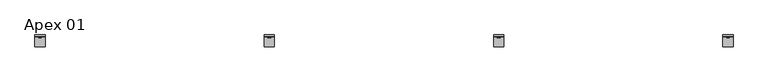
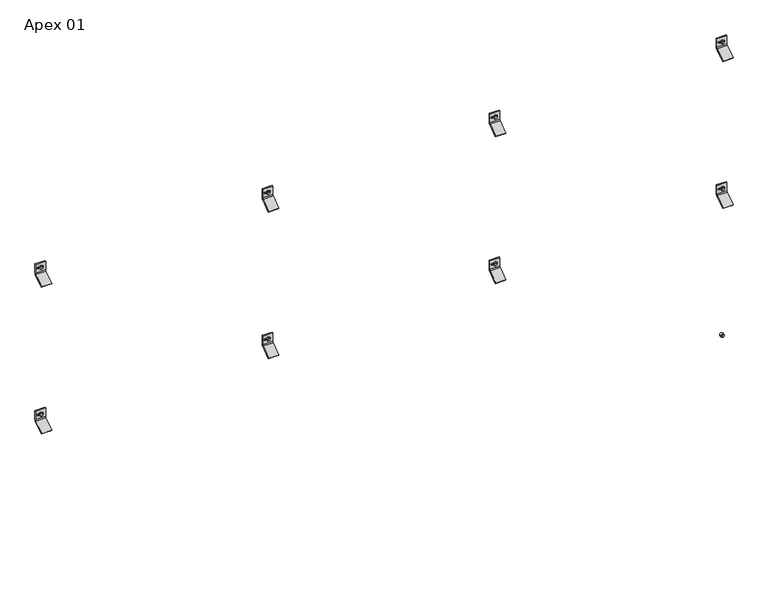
"""IFC4 building model written with IfcOpenShell, lengths in millimetres: plate geometry, Single-Panel-Perforated-Amico_Architectural : Apex 01."""

from ifc_helpers import new_model, si_unit, point, frame, frame_2d, origin, place, context, project, spatial, polyline, circle_curve, trimmed, segment, composite_curve, outline, extrude, source, transform, mapped, element, save
from ifc_brep_helpers import plane_surface, cylinder_surface, revolved_surface, advanced_brep


def apex_01_cb4a7286(model_context):
    return source(origin(), model_context, "Body", "SolidModel", [
        extrude(outline(polyline([(1939.6304341, 1290.3820034), (1935.2847216, 1292.8910017), (1935.2847216, 1297.9089983), (1939.6304341, 1300.4179966), (1943.9761466, 1297.9089983), (1943.9761466, 1292.8910017), (1939.6304341, 1290.3820034)])), frame((0.0, -58.7607779, 0.0), z_axis=(0.0, 1.0, 0.0), x_axis=(0.0, 0.0, 1.0)), (0.0, 0.0, 1.0), 11.1357779),
        extrude(outline(composite_curve([segment(trimmed(circle_curve(frame_2d((1939.7237411, 1295.4)), 6.35), [point((1939.7237411, 1301.75))], [point((1939.7237411, 1289.05))], False, "CARTESIAN"), True, "CONTINUOUS"), segment(trimmed(circle_curve(frame_2d((1939.7237411, 1295.4)), 6.35), [point((1939.7237411, 1289.05))], [point((1939.7237411, 1301.75))], False, "CARTESIAN"), True, "CONTINUOUS")], self_intersect=False)), frame((0.0, -57.0817743, 0.0), z_axis=(0.0, 1.0, 0.0), x_axis=(0.0, 0.0, 1.0)), (0.0, 0.0, 1.0), 9.4567743),
        advanced_brep(
        [(1276.35, -47.625, 1922.481122), (1276.35, -51.2819443, 1914.8190896), (1276.35, -89.5163624, 1888.0470618), (1276.35, -92.9330442, 1891.4637436), (1276.35, -54.3526876, 1918.4780001), (1276.35, -52.4002, 1922.4811929), (1276.35, -52.4002, 1956.6738072), (1276.35, -47.625, 1956.6738072), (1314.45, -47.625, 1922.481122), (1314.45, -47.625, 1956.6738072), (1314.45, -52.4002, 1956.6738072), (1314.45, -52.4002, 1922.4811929), (1314.45, -54.3526876, 1918.4780001), (1314.45, -92.9330442, 1891.4637436), (1314.45, -89.5163624, 1888.0470618), (1314.45, -51.2819443, 1914.8190896), (1302.1411889, -52.4002, 1942.628591), (1302.1411889, -52.4002, 1936.278591), (1285.9133287, -52.4002, 1936.278591), (1285.9133287, -52.4002, 1942.628591), (1302.1411889, -47.625, 1936.278591), (1302.1411889, -47.625, 1942.628591), (1285.9133287, -47.625, 1942.628591), (1285.9133287, -47.625, 1936.278591)],
        [
            (0, 1, circle_curve(frame((1276.35, -57.4802202, 1922.481122), z_axis=(-1.0, 0.0, 0.0), x_axis=(0.0, -1.0, 0.0)), 9.8552202)),
            (1, 2),
            (2, 3),
            (3, 4),
            (4, 5, circle_curve(frame((1276.35, -57.4803246, 1922.4811929), z_axis=(1.0, 0.0, 0.0), x_axis=(0.0, -1.0, 0.0)), 5.0801246)),
            (5, 6),
            (6, 7),
            (7, 0),
            (8, 9),
            (9, 10),
            (10, 11),
            (11, 12, circle_curve(frame((1314.45, -57.4803246, 1922.4811929), z_axis=(-1.0, 0.0, 0.0), x_axis=(0.0, -1.0, 0.0)), 5.0801246)),
            (12, 13),
            (13, 14),
            (14, 15),
            (15, 8, circle_curve(frame((1314.45, -57.4802202, 1922.481122), z_axis=(1.0, 0.0, 0.0), x_axis=(0.0, -1.0, 0.0)), 9.8552202)),
            (4, 12),
            (11, 5),
            (10, 6),
            (16, 17, circle_curve(frame((1302.1411889, -52.4002, 1939.453591), z_axis=(0.0, 1.0, 0.0), x_axis=(0.0, 0.0, -1.0)), 3.175)),
            (17, 18),
            (18, 19, circle_curve(frame((1285.9133287, -52.4002, 1939.453591), z_axis=(0.0, 1.0, 0.0), x_axis=(0.0, 0.0, -1.0)), 3.175)),
            (19, 16),
            (9, 7),
            (8, 0),
            (20, 21, circle_curve(frame((1302.1411889, -47.625, 1939.453591), z_axis=(0.0, -1.0, 0.0), x_axis=(0.0, 0.0, -1.0)), 3.175)),
            (21, 22),
            (22, 23, circle_curve(frame((1285.9133287, -47.625, 1939.453591), z_axis=(0.0, -1.0, 0.0), x_axis=(0.0, 0.0, -1.0)), 3.175)),
            (23, 20),
            (15, 1),
            (20, 17),
            (16, 21),
            (19, 22),
            (18, 23),
            (14, 2),
            (13, 3),
        ],
        [
            plane_surface(frame((1276.35, -67.3354404, 1922.481122), z_axis=(-1.0, 0.0, 0.0), x_axis=(0.0, 0.0, 1.0))),
            plane_surface(frame((1314.45, -67.3354404, 1922.481122), z_axis=(1.0, 0.0, 0.0), x_axis=(0.0, 0.0, -1.0))),
            revolved_surface(polyline([(1314.45, -62.5604492, 1922.4811929), (1276.35, -62.5604492, 1922.4811929)]), (1314.45, -57.4803246, 1922.4811929), (1.0, 0.0, 0.0)),
            plane_surface(frame((1276.35, -52.4002, 1922.4811929), z_axis=(0.0, -1.0, 0.0), x_axis=(1.0, 0.0, 0.0))),
            plane_surface(frame((1276.35, -52.4002, 1956.6738072), z_axis=(0.0, 0.0, 1.0), x_axis=(1.0, 0.0, 0.0))),
            plane_surface(frame((1276.35, -47.625, 1956.6738072), z_axis=(0.0, 1.0, 6.99569853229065e-12), x_axis=(1.0, 0.0, 0.0))),
            cylinder_surface(frame((1314.45, -57.4802202, 1922.481122), z_axis=(-1.0, 0.0, 0.0), x_axis=(0.0, -1.0, 0.0)), 9.8552202),
            revolved_surface(polyline([(1302.1411889, -52.4002, 1936.278591), (1302.1411889, -47.625, 1936.278591)]), (1302.1411889, -25.6669948, 1939.453591), (0.0, -1.0, 0.0)),
            plane_surface(frame((1302.1411889, -86.677982, 1942.628591), z_axis=(0.0, 0.0, -1.0), x_axis=(0.0, 1.0, 0.0))),
            revolved_surface(polyline([(1285.9133287, -52.4002, 1936.278591), (1285.9133287, -47.625, 1936.278591)]), (1285.9133287, -25.6669948, 1939.453591), (0.0, -1.0, 0.0)),
            plane_surface(frame((1285.9133287, -86.677982, 1936.278591), z_axis=(-2.7237720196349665e-11, 0.0, 1.0), x_axis=(0.0, 1.0, 0.0))),
            plane_surface(frame((1276.35, -51.2819443, 1914.8190896), z_axis=(0.0, 0.5735764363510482, -0.8191520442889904), x_axis=(1.0, 0.0, 0.0))),
            plane_surface(frame((1276.35, -89.5163624, 1888.0470618), z_axis=(0.0, -0.7071067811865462, -0.7071067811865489), x_axis=(1.0, 0.0, 0.0))),
            plane_surface(frame((1276.35, -92.9330442, 1891.4637436), z_axis=(0.0, -0.5735764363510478, 0.8191520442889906), x_axis=(1.0, 0.0, 0.0))),
        ],
        [
            (0, [[1, 2, 3, 4, 5, 6, 7, 8]]),
            (1, [[9, 10, 11, 12, 13, 14, 15, 16]]),
            (2, [[-5, 17, -12, 18]]),
            (3, [[-6, -18, -11, 19], [20, 21, 22, 23]]),
            (4, [[-7, -19, -10, 24]]),
            (5, [[-8, -24, -9, 25], [26, 27, 28, 29]]),
            (6, [[-1, -25, -16, 30]]),
            (7, [[31, -20, 32, -26]]),
            (8, [[-32, -23, 33, -27]]),
            (9, [[-33, -22, 34, -28]]),
            (10, [[-31, -29, -34, -21]]),
            (11, [[-2, -30, -15, 35]]),
            (12, [[-3, -35, -14, 36]]),
            (13, [[-4, -36, -13, -17]]),
        ],
    ),
        extrude(outline(polyline([(1939.6304341, 426.7820034), (1935.2847216, 429.2910017), (1935.2847216, 434.3089983), (1939.6304341, 436.8179966), (1943.9761466, 434.3089983), (1943.9761466, 429.2910017), (1939.6304341, 426.7820034)])), frame((0.0, -58.7607779, 0.0), z_axis=(0.0, 1.0, 0.0), x_axis=(0.0, 0.0, 1.0)), (0.0, 0.0, 1.0), 11.1357779),
        extrude(outline(composite_curve([segment(trimmed(circle_curve(frame_2d((1939.7237411, 431.8)), 6.35), [point((1939.7237411, 438.15))], [point((1939.7237411, 425.45))], False, "CARTESIAN"), True, "CONTINUOUS"), segment(trimmed(circle_curve(frame_2d((1939.7237411, 431.8)), 6.35), [point((1939.7237411, 425.45))], [point((1939.7237411, 438.15))], False, "CARTESIAN"), True, "CONTINUOUS")], self_intersect=False)), frame((0.0, -57.0817743, 0.0), z_axis=(0.0, 1.0, 0.0), x_axis=(0.0, 0.0, 1.0)), (0.0, 0.0, 1.0), 9.4567743),
        advanced_brep(
        [(412.75, -47.625, 1922.481122), (412.75, -51.2819443, 1914.8190896), (412.75, -89.5163624, 1888.0470618), (412.75, -92.9330442, 1891.4637436), (412.75, -54.3526876, 1918.4780001), (412.75, -52.4002, 1922.4811929), (412.75, -52.4002, 1956.6738072), (412.75, -47.625, 1956.6738072), (450.85, -47.625, 1922.481122), (450.85, -47.625, 1956.6738072), (450.85, -52.4002, 1956.6738072), (450.85, -52.4002, 1922.4811929), (450.85, -54.3526876, 1918.4780001), (450.85, -92.9330442, 1891.4637436), (450.85, -89.5163624, 1888.0470618), (450.85, -51.2819443, 1914.8190896), (438.5411889, -52.4002, 1942.628591), (438.5411889, -52.4002, 1936.278591), (422.3133287, -52.4002, 1936.278591), (422.3133287, -52.4002, 1942.628591), (438.5411889, -47.625, 1936.278591), (438.5411889, -47.625, 1942.628591), (422.3133287, -47.625, 1942.628591), (422.3133287, -47.625, 1936.278591)],
        [
            (0, 1, circle_curve(frame((412.75, -57.4802202, 1922.481122), z_axis=(-1.0, 0.0, 0.0), x_axis=(0.0, -1.0, 0.0)), 9.8552202)),
            (1, 2),
            (2, 3),
            (3, 4),
            (4, 5, circle_curve(frame((412.75, -57.4803246, 1922.4811929), z_axis=(1.0, 0.0, 0.0), x_axis=(0.0, -1.0, 0.0)), 5.0801246)),
            (5, 6),
            (6, 7),
            (7, 0),
            (8, 9),
            (9, 10),
            (10, 11),
            (11, 12, circle_curve(frame((450.85, -57.4803246, 1922.4811929), z_axis=(-1.0, 0.0, 0.0), x_axis=(0.0, -1.0, 0.0)), 5.0801246)),
            (12, 13),
            (13, 14),
            (14, 15),
            (15, 8, circle_curve(frame((450.85, -57.4802202, 1922.481122), z_axis=(1.0, 0.0, 0.0), x_axis=(0.0, -1.0, 0.0)), 9.8552202)),
            (4, 12),
            (11, 5),
            (10, 6),
            (16, 17, circle_curve(frame((438.5411889, -52.4002, 1939.453591), z_axis=(0.0, 1.0, 0.0), x_axis=(0.0, 0.0, -1.0)), 3.175)),
            (17, 18),
            (18, 19, circle_curve(frame((422.3133287, -52.4002, 1939.453591), z_axis=(0.0, 1.0, 0.0), x_axis=(0.0, 0.0, -1.0)), 3.175)),
            (19, 16),
            (9, 7),
            (8, 0),
            (20, 21, circle_curve(frame((438.5411889, -47.625, 1939.453591), z_axis=(0.0, -1.0, 0.0), x_axis=(0.0, 0.0, -1.0)), 3.175)),
            (21, 22),
            (22, 23, circle_curve(frame((422.3133287, -47.625, 1939.453591), z_axis=(0.0, -1.0, 0.0), x_axis=(0.0, 0.0, -1.0)), 3.175)),
            (23, 20),
            (15, 1),
            (20, 17),
            (16, 21),
            (19, 22),
            (18, 23),
            (14, 2),
            (13, 3),
        ],
        [
            plane_surface(frame((412.75, -67.3354404, 1922.481122), z_axis=(-1.0, 0.0, 0.0), x_axis=(0.0, 0.0, 1.0))),
            plane_surface(frame((450.85, -67.3354404, 1922.481122), z_axis=(1.0, 0.0, 0.0), x_axis=(0.0, 0.0, -1.0))),
            revolved_surface(polyline([(450.85, -62.5604492, 1922.4811929), (412.75, -62.5604492, 1922.4811929)]), (450.85, -57.4803246, 1922.4811929), (1.0, 0.0, 0.0)),
            plane_surface(frame((412.75, -52.4002, 1922.4811929), z_axis=(0.0, -1.0, 0.0), x_axis=(1.0, 0.0, 0.0))),
            plane_surface(frame((412.75, -52.4002, 1956.6738072), z_axis=(0.0, 0.0, 1.0), x_axis=(1.0, 0.0, 0.0))),
            plane_surface(frame((412.75, -47.625, 1956.6738072), z_axis=(0.0, 1.0, 6.99569853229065e-12), x_axis=(1.0, 0.0, 0.0))),
            cylinder_surface(frame((450.85, -57.4802202, 1922.481122), z_axis=(-1.0, 0.0, 0.0), x_axis=(0.0, -1.0, 0.0)), 9.8552202),
            revolved_surface(polyline([(438.5411889, -52.4002, 1936.278591), (438.5411889, -47.625, 1936.278591)]), (438.5411889, -25.6669948, 1939.453591), (0.0, -1.0, 0.0)),
            plane_surface(frame((438.5411889, -86.677982, 1942.628591), z_axis=(0.0, 0.0, -1.0), x_axis=(0.0, 1.0, 0.0))),
            revolved_surface(polyline([(422.3133287, -52.4002, 1936.278591), (422.3133287, -47.625, 1936.278591)]), (422.3133287, -25.6669948, 1939.453591), (0.0, -1.0, 0.0)),
            plane_surface(frame((422.3133287, -86.677982, 1936.278591), z_axis=(-2.7237720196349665e-11, 0.0, 1.0), x_axis=(0.0, 1.0, 0.0))),
            plane_surface(frame((412.75, -51.2819443, 1914.8190896), z_axis=(0.0, 0.5735764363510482, -0.8191520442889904), x_axis=(1.0, 0.0, 0.0))),
            plane_surface(frame((412.75, -89.5163624, 1888.0470618), z_axis=(0.0, -0.7071067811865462, -0.7071067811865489), x_axis=(1.0, 0.0, 0.0))),
            plane_surface(frame((412.75, -92.9330442, 1891.4637436), z_axis=(0.0, -0.5735764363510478, 0.8191520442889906), x_axis=(1.0, 0.0, 0.0))),
        ],
        [
            (0, [[1, 2, 3, 4, 5, 6, 7, 8]]),
            (1, [[9, 10, 11, 12, 13, 14, 15, 16]]),
            (2, [[-5, 17, -12, 18]]),
            (3, [[-6, -18, -11, 19], [20, 21, 22, 23]]),
            (4, [[-7, -19, -10, 24]]),
            (5, [[-8, -24, -9, 25], [26, 27, 28, 29]]),
            (6, [[-1, -25, -16, 30]]),
            (7, [[31, -20, 32, -26]]),
            (8, [[-32, -23, 33, -27]]),
            (9, [[-33, -22, 34, -28]]),
            (10, [[-31, -29, -34, -21]]),
            (11, [[-2, -30, -15, 35]]),
            (12, [[-3, -35, -14, 36]]),
            (13, [[-4, -36, -13, -17]]),
        ],
    ),
        extrude(outline(polyline([(1939.6304341, -436.8179966), (1935.2847216, -434.3089983), (1935.2847216, -429.2910017), (1939.6304341, -426.7820034), (1943.9761466, -429.2910017), (1943.9761466, -434.3089983), (1939.6304341, -436.8179966)])), frame((0.0, -58.7607779, 0.0), z_axis=(0.0, 1.0, 0.0), x_axis=(0.0, 0.0, 1.0)), (0.0, 0.0, 1.0), 11.1357779),
        extrude(outline(composite_curve([segment(trimmed(circle_curve(frame_2d((1939.7237411, -431.8)), 6.35), [point((1939.7237411, -425.45))], [point((1939.7237411, -438.15))], False, "CARTESIAN"), True, "CONTINUOUS"), segment(trimmed(circle_curve(frame_2d((1939.7237411, -431.8)), 6.35), [point((1939.7237411, -438.15))], [point((1939.7237411, -425.45))], False, "CARTESIAN"), True, "CONTINUOUS")], self_intersect=False)), frame((0.0, -57.0817743, 0.0), z_axis=(0.0, 1.0, 0.0), x_axis=(0.0, 0.0, 1.0)), (0.0, 0.0, 1.0), 9.4567743),
        advanced_brep(
        [(-450.85, -47.625, 1922.481122), (-450.85, -51.2819443, 1914.8190896), (-450.85, -89.5163624, 1888.0470618), (-450.85, -92.9330442, 1891.4637436), (-450.85, -54.3526876, 1918.4780001), (-450.85, -52.4002, 1922.4811929), (-450.85, -52.4002, 1956.6738072), (-450.85, -47.625, 1956.6738072), (-412.75, -47.625, 1922.481122), (-412.75, -47.625, 1956.6738072), (-412.75, -52.4002, 1956.6738072), (-412.75, -52.4002, 1922.4811929), (-412.75, -54.3526876, 1918.4780001), (-412.75, -92.9330442, 1891.4637436), (-412.75, -89.5163624, 1888.0470618), (-412.75, -51.2819443, 1914.8190896), (-425.0588111, -52.4002, 1942.628591), (-425.0588111, -52.4002, 1936.278591), (-441.2866713, -52.4002, 1936.278591), (-441.2866713, -52.4002, 1942.628591), (-425.0588111, -47.625, 1936.278591), (-425.0588111, -47.625, 1942.628591), (-441.2866713, -47.625, 1942.628591), (-441.2866713, -47.625, 1936.278591)],
        [
            (0, 1, circle_curve(frame((-450.85, -57.4802202, 1922.481122), z_axis=(-1.0, 0.0, 0.0), x_axis=(0.0, -1.0, 0.0)), 9.8552202)),
            (1, 2),
            (2, 3),
            (3, 4),
            (4, 5, circle_curve(frame((-450.85, -57.4803246, 1922.4811929), z_axis=(1.0, 0.0, 0.0), x_axis=(0.0, -1.0, 0.0)), 5.0801246)),
            (5, 6),
            (6, 7),
            (7, 0),
            (8, 9),
            (9, 10),
            (10, 11),
            (11, 12, circle_curve(frame((-412.75, -57.4803246, 1922.4811929), z_axis=(-1.0, 0.0, 0.0), x_axis=(0.0, -1.0, 0.0)), 5.0801246)),
            (12, 13),
            (13, 14),
            (14, 15),
            (15, 8, circle_curve(frame((-412.75, -57.4802202, 1922.481122), z_axis=(1.0, 0.0, 0.0), x_axis=(0.0, -1.0, 0.0)), 9.8552202)),
            (4, 12),
            (11, 5),
            (10, 6),
            (16, 17, circle_curve(frame((-425.0588111, -52.4002, 1939.453591), z_axis=(0.0, 1.0, 0.0), x_axis=(0.0, 0.0, -1.0)), 3.175)),
            (17, 18),
            (18, 19, circle_curve(frame((-441.2866713, -52.4002, 1939.453591), z_axis=(0.0, 1.0, 0.0), x_axis=(0.0, 0.0, -1.0)), 3.175)),
            (19, 16),
            (9, 7),
            (8, 0),
            (20, 21, circle_curve(frame((-425.0588111, -47.625, 1939.453591), z_axis=(0.0, -1.0, 0.0), x_axis=(0.0, 0.0, -1.0)), 3.175)),
            (21, 22),
            (22, 23, circle_curve(frame((-441.2866713, -47.625, 1939.453591), z_axis=(0.0, -1.0, 0.0), x_axis=(0.0, 0.0, -1.0)), 3.175)),
            (23, 20),
            (15, 1),
            (20, 17),
            (16, 21),
            (19, 22),
            (18, 23),
            (14, 2),
            (13, 3),
        ],
        [
            plane_surface(frame((-450.85, -67.3354404, 1922.481122), z_axis=(-1.0, 0.0, 0.0), x_axis=(0.0, 0.0, 1.0))),
            plane_surface(frame((-412.75, -67.3354404, 1922.481122), z_axis=(1.0, 0.0, 0.0), x_axis=(0.0, 0.0, -1.0))),
            revolved_surface(polyline([(-412.75, -62.5604492, 1922.4811929), (-450.85, -62.5604492, 1922.4811929)]), (-412.75, -57.4803246, 1922.4811929), (1.0, 0.0, 0.0)),
            plane_surface(frame((-450.85, -52.4002, 1922.4811929), z_axis=(0.0, -1.0, 0.0), x_axis=(1.0, 0.0, 0.0))),
            plane_surface(frame((-450.85, -52.4002, 1956.6738072), z_axis=(0.0, 0.0, 1.0), x_axis=(1.0, 0.0, 0.0))),
            plane_surface(frame((-450.85, -47.625, 1956.6738072), z_axis=(0.0, 1.0, 6.99569853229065e-12), x_axis=(1.0, 0.0, 0.0))),
            cylinder_surface(frame((-412.75, -57.4802202, 1922.481122), z_axis=(-1.0, 0.0, 0.0), x_axis=(0.0, -1.0, 0.0)), 9.8552202),
            revolved_surface(polyline([(-425.0588111, -52.4002, 1936.278591), (-425.0588111, -47.625, 1936.278591)]), (-425.0588111, -25.6669948, 1939.453591), (0.0, -1.0, 0.0)),
            plane_surface(frame((-425.0588111, -86.677982, 1942.628591), z_axis=(0.0, 0.0, -1.0), x_axis=(0.0, 1.0, 0.0))),
            revolved_surface(polyline([(-441.2866713, -52.4002, 1936.278591), (-441.2866713, -47.625, 1936.278591)]), (-441.2866713, -25.6669948, 1939.453591), (0.0, -1.0, 0.0)),
            plane_surface(frame((-441.2866713, -86.677982, 1936.278591), z_axis=(-2.7237720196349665e-11, 0.0, 1.0), x_axis=(0.0, 1.0, 0.0))),
            plane_surface(frame((-450.85, -51.2819443, 1914.8190896), z_axis=(0.0, 0.5735764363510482, -0.8191520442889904), x_axis=(1.0, 0.0, 0.0))),
            plane_surface(frame((-450.85, -89.5163624, 1888.0470618), z_axis=(0.0, -0.7071067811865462, -0.7071067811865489), x_axis=(1.0, 0.0, 0.0))),
            plane_surface(frame((-450.85, -92.9330442, 1891.4637436), z_axis=(0.0, -0.5735764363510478, 0.8191520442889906), x_axis=(1.0, 0.0, 0.0))),
        ],
        [
            (0, [[1, 2, 3, 4, 5, 6, 7, 8]]),
            (1, [[9, 10, 11, 12, 13, 14, 15, 16]]),
            (2, [[-5, 17, -12, 18]]),
            (3, [[-6, -18, -11, 19], [20, 21, 22, 23]]),
            (4, [[-7, -19, -10, 24]]),
            (5, [[-8, -24, -9, 25], [26, 27, 28, 29]]),
            (6, [[-1, -25, -16, 30]]),
            (7, [[31, -20, 32, -26]]),
            (8, [[-32, -23, 33, -27]]),
            (9, [[-33, -22, 34, -28]]),
            (10, [[-31, -29, -34, -21]]),
            (11, [[-2, -30, -15, 35]]),
            (12, [[-3, -35, -14, 36]]),
            (13, [[-4, -36, -13, -17]]),
        ],
    ),
        extrude(outline(polyline([(1939.6304341, -1300.4179966), (1935.2847216, -1297.9089983), (1935.2847216, -1292.8910017), (1939.6304341, -1290.3820034), (1943.9761466, -1292.8910017), (1943.9761466, -1297.9089983), (1939.6304341, -1300.4179966)])), frame((0.0, -58.7607779, 0.0), z_axis=(0.0, 1.0, 0.0), x_axis=(0.0, 0.0, 1.0)), (0.0, 0.0, 1.0), 11.1357779),
        extrude(outline(composite_curve([segment(trimmed(circle_curve(frame_2d((1939.7237411, -1295.4)), 6.35), [point((1939.7237411, -1289.05))], [point((1939.7237411, -1301.75))], False, "CARTESIAN"), True, "CONTINUOUS"), segment(trimmed(circle_curve(frame_2d((1939.7237411, -1295.4)), 6.35), [point((1939.7237411, -1301.75))], [point((1939.7237411, -1289.05))], False, "CARTESIAN"), True, "CONTINUOUS")], self_intersect=False)), frame((0.0, -57.0817743, 0.0), z_axis=(0.0, 1.0, 0.0), x_axis=(0.0, 0.0, 1.0)), (0.0, 0.0, 1.0), 9.4567743),
        advanced_brep(
        [(-1314.45, -47.625, 1922.481122), (-1314.45, -51.2819443, 1914.8190896), (-1314.45, -89.5163624, 1888.0470618), (-1314.45, -92.9330442, 1891.4637436), (-1314.45, -54.3526876, 1918.4780001), (-1314.45, -52.4002, 1922.4811929), (-1314.45, -52.4002, 1956.6738072), (-1314.45, -47.625, 1956.6738072), (-1276.35, -47.625, 1922.481122), (-1276.35, -47.625, 1956.6738072), (-1276.35, -52.4002, 1956.6738072), (-1276.35, -52.4002, 1922.4811929), (-1276.35, -54.3526876, 1918.4780001), (-1276.35, -92.9330442, 1891.4637436), (-1276.35, -89.5163624, 1888.0470618), (-1276.35, -51.2819443, 1914.8190896), (-1288.6588111, -52.4002, 1942.628591), (-1288.6588111, -52.4002, 1936.278591), (-1304.8866713, -52.4002, 1936.278591), (-1304.8866713, -52.4002, 1942.628591), (-1288.6588111, -47.625, 1936.278591), (-1288.6588111, -47.625, 1942.628591), (-1304.8866713, -47.625, 1942.628591), (-1304.8866713, -47.625, 1936.278591)],
        [
            (0, 1, circle_curve(frame((-1314.45, -57.4802202, 1922.481122), z_axis=(-1.0, 0.0, 0.0), x_axis=(0.0, -1.0, 0.0)), 9.8552202)),
            (1, 2),
            (2, 3),
            (3, 4),
            (4, 5, circle_curve(frame((-1314.45, -57.4803246, 1922.4811929), z_axis=(1.0, 0.0, 0.0), x_axis=(0.0, -1.0, 0.0)), 5.0801246)),
            (5, 6),
            (6, 7),
            (7, 0),
            (8, 9),
            (9, 10),
            (10, 11),
            (11, 12, circle_curve(frame((-1276.35, -57.4803246, 1922.4811929), z_axis=(-1.0, 0.0, 0.0), x_axis=(0.0, -1.0, 0.0)), 5.0801246)),
            (12, 13),
            (13, 14),
            (14, 15),
            (15, 8, circle_curve(frame((-1276.35, -57.4802202, 1922.481122), z_axis=(1.0, 0.0, 0.0), x_axis=(0.0, -1.0, 0.0)), 9.8552202)),
            (4, 12),
            (11, 5),
            (10, 6),
            (16, 17, circle_curve(frame((-1288.6588111, -52.4002, 1939.453591), z_axis=(0.0, 1.0, 0.0), x_axis=(0.0, 0.0, -1.0)), 3.175)),
            (17, 18),
            (18, 19, circle_curve(frame((-1304.8866713, -52.4002, 1939.453591), z_axis=(0.0, 1.0, 0.0), x_axis=(0.0, 0.0, -1.0)), 3.175)),
            (19, 16),
            (9, 7),
            (8, 0),
            (20, 21, circle_curve(frame((-1288.6588111, -47.625, 1939.453591), z_axis=(0.0, -1.0, 0.0), x_axis=(0.0, 0.0, -1.0)), 3.175)),
            (21, 22),
            (22, 23, circle_curve(frame((-1304.8866713, -47.625, 1939.453591), z_axis=(0.0, -1.0, 0.0), x_axis=(0.0, 0.0, -1.0)), 3.175)),
            (23, 20),
            (15, 1),
            (20, 17),
            (16, 21),
            (19, 22),
            (18, 23),
            (14, 2),
            (13, 3),
        ],
        [
            plane_surface(frame((-1314.45, -67.3354404, 1922.481122), z_axis=(-1.0, 0.0, 0.0), x_axis=(0.0, 0.0, 1.0))),
            plane_surface(frame((-1276.35, -67.3354404, 1922.481122), z_axis=(1.0, 0.0, 0.0), x_axis=(0.0, 0.0, -1.0))),
            revolved_surface(polyline([(-1276.35, -62.5604492, 1922.4811929), (-1314.45, -62.5604492, 1922.4811929)]), (-1276.35, -57.4803246, 1922.4811929), (1.0, 0.0, 0.0)),
            plane_surface(frame((-1314.45, -52.4002, 1922.4811929), z_axis=(0.0, -1.0, 0.0), x_axis=(1.0, 0.0, 0.0))),
            plane_surface(frame((-1314.45, -52.4002, 1956.6738072), z_axis=(0.0, 0.0, 1.0), x_axis=(1.0, 0.0, 0.0))),
            plane_surface(frame((-1314.45, -47.625, 1956.6738072), z_axis=(0.0, 1.0, 6.99569853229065e-12), x_axis=(1.0, 0.0, 0.0))),
            cylinder_surface(frame((-1276.35, -57.4802202, 1922.481122), z_axis=(-1.0, 0.0, 0.0), x_axis=(0.0, -1.0, 0.0)), 9.8552202),
            revolved_surface(polyline([(-1288.6588111, -52.4002, 1936.278591), (-1288.6588111, -47.625, 1936.278591)]), (-1288.6588111, -25.6669948, 1939.453591), (0.0, -1.0, 0.0)),
            plane_surface(frame((-1288.6588111, -86.677982, 1942.628591), z_axis=(0.0, 0.0, -1.0), x_axis=(0.0, 1.0, 0.0))),
            revolved_surface(polyline([(-1304.8866713, -52.4002, 1936.278591), (-1304.8866713, -47.625, 1936.278591)]), (-1304.8866713, -25.6669948, 1939.453591), (0.0, -1.0, 0.0)),
            plane_surface(frame((-1304.8866713, -86.677982, 1936.278591), z_axis=(-2.7237720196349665e-11, 0.0, 1.0), x_axis=(0.0, 1.0, 0.0))),
            plane_surface(frame((-1314.45, -51.2819443, 1914.8190896), z_axis=(0.0, 0.5735764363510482, -0.8191520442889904), x_axis=(1.0, 0.0, 0.0))),
            plane_surface(frame((-1314.45, -89.5163624, 1888.0470618), z_axis=(0.0, -0.7071067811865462, -0.7071067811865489), x_axis=(1.0, 0.0, 0.0))),
            plane_surface(frame((-1314.45, -92.9330442, 1891.4637436), z_axis=(0.0, -0.5735764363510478, 0.8191520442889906), x_axis=(1.0, 0.0, 0.0))),
        ],
        [
            (0, [[1, 2, 3, 4, 5, 6, 7, 8]]),
            (1, [[9, 10, 11, 12, 13, 14, 15, 16]]),
            (2, [[-5, 17, -12, 18]]),
            (3, [[-6, -18, -11, 19], [20, 21, 22, 23]]),
            (4, [[-7, -19, -10, 24]]),
            (5, [[-8, -24, -9, 25], [26, 27, 28, 29]]),
            (6, [[-1, -25, -16, 30]]),
            (7, [[31, -20, 32, -26]]),
            (8, [[-32, -23, 33, -27]]),
            (9, [[-33, -22, 34, -28]]),
            (10, [[-31, -29, -34, -21]]),
            (11, [[-2, -30, -15, 35]]),
            (12, [[-3, -35, -14, 36]]),
            (13, [[-4, -36, -13, -17]]),
        ],
    ),
        extrude(outline(polyline([(1349.7134668, 1290.3820034), (1345.3677543, 1292.8910017), (1345.3677543, 1297.9089983), (1349.7134668, 1300.4179966), (1354.0591793, 1297.9089983), (1354.0591793, 1292.8910017), (1349.7134668, 1290.3820034)])), frame((0.0, -58.7607779, 0.0), z_axis=(0.0, 1.0, 0.0), x_axis=(0.0, 0.0, 1.0)), (0.0, 0.0, 1.0), 11.1357779),
        extrude(outline(composite_curve([segment(trimmed(circle_curve(frame_2d((1349.8067738, 1295.4)), 6.35), [point((1349.8067738, 1301.75))], [point((1349.8067738, 1289.05))], False, "CARTESIAN"), True, "CONTINUOUS"), segment(trimmed(circle_curve(frame_2d((1349.8067738, 1295.4)), 6.35), [point((1349.8067738, 1289.05))], [point((1349.8067738, 1301.75))], False, "CARTESIAN"), True, "CONTINUOUS")], self_intersect=False)), frame((0.0, -57.0817743, 0.0), z_axis=(0.0, 1.0, 0.0), x_axis=(0.0, 0.0, 1.0)), (0.0, 0.0, 1.0), 9.4567743),
        advanced_brep(
        [(1276.35, -47.625, 1332.5641547), (1276.35, -51.2819443, 1324.9021223), (1276.35, -89.5163624, 1298.1300945), (1276.35, -92.9330442, 1301.5467763), (1276.35, -54.3526876, 1328.5610329), (1276.35, -52.4002, 1332.5642256), (1276.35, -52.4002, 1366.7568399), (1276.35, -47.625, 1366.7568399), (1314.45, -47.625, 1332.5641547), (1314.45, -47.625, 1366.7568399), (1314.45, -52.4002, 1366.7568399), (1314.45, -52.4002, 1332.5642256), (1314.45, -54.3526876, 1328.5610329), (1314.45, -92.9330442, 1301.5467763), (1314.45, -89.5163624, 1298.1300945), (1314.45, -51.2819443, 1324.9021223), (1302.1411889, -52.4002, 1352.7116237), (1302.1411889, -52.4002, 1346.3616237), (1285.9133287, -52.4002, 1346.3616237), (1285.9133287, -52.4002, 1352.7116237), (1302.1411889, -47.625, 1346.3616237), (1302.1411889, -47.625, 1352.7116237), (1285.9133287, -47.625, 1352.7116237), (1285.9133287, -47.625, 1346.3616237)],
        [
            (0, 1, circle_curve(frame((1276.35, -57.4802202, 1332.5641547), z_axis=(-1.0, 0.0, 0.0), x_axis=(0.0, -1.0, 0.0)), 9.8552202)),
            (1, 2),
            (2, 3),
            (3, 4),
            (4, 5, circle_curve(frame((1276.35, -57.4803246, 1332.5642256), z_axis=(1.0, 0.0, 0.0), x_axis=(0.0, -1.0, 0.0)), 5.0801246)),
            (5, 6),
            (6, 7),
            (7, 0),
            (8, 9),
            (9, 10),
            (10, 11),
            (11, 12, circle_curve(frame((1314.45, -57.4803246, 1332.5642256), z_axis=(-1.0, 0.0, 0.0), x_axis=(0.0, -1.0, 0.0)), 5.0801246)),
            (12, 13),
            (13, 14),
            (14, 15),
            (15, 8, circle_curve(frame((1314.45, -57.4802202, 1332.5641547), z_axis=(1.0, 0.0, 0.0), x_axis=(0.0, -1.0, 0.0)), 9.8552202)),
            (4, 12),
            (11, 5),
            (10, 6),
            (16, 17, circle_curve(frame((1302.1411889, -52.4002, 1349.5366237), z_axis=(0.0, 1.0, 0.0), x_axis=(0.0, 0.0, -1.0)), 3.175)),
            (17, 18),
            (18, 19, circle_curve(frame((1285.9133287, -52.4002, 1349.5366237), z_axis=(0.0, 1.0, 0.0), x_axis=(0.0, 0.0, -1.0)), 3.175)),
            (19, 16),
            (9, 7),
            (8, 0),
            (20, 21, circle_curve(frame((1302.1411889, -47.625, 1349.5366237), z_axis=(0.0, -1.0, 0.0), x_axis=(0.0, 0.0, -1.0)), 3.175)),
            (21, 22),
            (22, 23, circle_curve(frame((1285.9133287, -47.625, 1349.5366237), z_axis=(0.0, -1.0, 0.0), x_axis=(0.0, 0.0, -1.0)), 3.175)),
            (23, 20),
            (15, 1),
            (20, 17),
            (16, 21),
            (19, 22),
            (18, 23),
            (14, 2),
            (13, 3),
        ],
        [
            plane_surface(frame((1276.35, -67.3354404, 1332.5641547), z_axis=(-1.0, 0.0, 0.0), x_axis=(0.0, 0.0, 1.0))),
            plane_surface(frame((1314.45, -67.3354404, 1332.5641547), z_axis=(1.0, 0.0, 0.0), x_axis=(0.0, 0.0, -1.0))),
            revolved_surface(polyline([(1314.45, -62.5604492, 1332.5642256), (1276.35, -62.5604492, 1332.5642256)]), (1314.45, -57.4803246, 1332.5642256), (1.0, 0.0, 0.0)),
            plane_surface(frame((1276.35, -52.4002, 1332.5642256), z_axis=(0.0, -1.0, 0.0), x_axis=(1.0, 0.0, 0.0))),
            plane_surface(frame((1276.35, -52.4002, 1366.7568399), z_axis=(0.0, 0.0, 1.0), x_axis=(1.0, 0.0, 0.0))),
            plane_surface(frame((1276.35, -47.625, 1366.7568399), z_axis=(0.0, 1.0, 6.99569853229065e-12), x_axis=(1.0, 0.0, 0.0))),
            cylinder_surface(frame((1314.45, -57.4802202, 1332.5641547), z_axis=(-1.0, 0.0, 0.0), x_axis=(0.0, -1.0, 0.0)), 9.8552202),
            revolved_surface(polyline([(1302.1411889, -52.4002, 1346.3616237), (1302.1411889, -47.625, 1346.3616237)]), (1302.1411889, -25.6669948, 1349.5366237), (0.0, -1.0, 0.0)),
            plane_surface(frame((1302.1411889, -86.677982, 1352.7116237), z_axis=(0.0, 0.0, -1.0), x_axis=(0.0, 1.0, 0.0))),
            revolved_surface(polyline([(1285.9133287, -52.4002, 1346.3616237), (1285.9133287, -47.625, 1346.3616237)]), (1285.9133287, -25.6669948, 1349.5366237), (0.0, -1.0, 0.0)),
            plane_surface(frame((1285.9133287, -86.677982, 1346.3616237), z_axis=(-2.7237766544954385e-11, 0.0, 1.0), x_axis=(0.0, 1.0, 0.0))),
            plane_surface(frame((1276.35, -51.2819443, 1324.9021223), z_axis=(0.0, 0.5735764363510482, -0.8191520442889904), x_axis=(1.0, 0.0, 0.0))),
            plane_surface(frame((1276.35, -89.5163624, 1298.1300945), z_axis=(0.0, -0.7071067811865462, -0.7071067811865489), x_axis=(1.0, 0.0, 0.0))),
            plane_surface(frame((1276.35, -92.9330442, 1301.5467763), z_axis=(0.0, -0.5735764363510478, 0.8191520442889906), x_axis=(1.0, 0.0, 0.0))),
        ],
        [
            (0, [[1, 2, 3, 4, 5, 6, 7, 8]]),
            (1, [[9, 10, 11, 12, 13, 14, 15, 16]]),
            (2, [[-5, 17, -12, 18]]),
            (3, [[-6, -18, -11, 19], [20, 21, 22, 23]]),
            (4, [[-7, -19, -10, 24]]),
            (5, [[-8, -24, -9, 25], [26, 27, 28, 29]]),
            (6, [[-1, -25, -16, 30]]),
            (7, [[31, -20, 32, -26]]),
            (8, [[-32, -23, 33, -27]]),
            (9, [[-33, -22, 34, -28]]),
            (10, [[-31, -29, -34, -21]]),
            (11, [[-2, -30, -15, 35]]),
            (12, [[-3, -35, -14, 36]]),
            (13, [[-4, -36, -13, -17]]),
        ],
    ),
        extrude(outline(polyline([(1349.7134668, 426.7820034), (1345.3677543, 429.2910017), (1345.3677543, 434.3089983), (1349.7134668, 436.8179966), (1354.0591793, 434.3089983), (1354.0591793, 429.2910017), (1349.7134668, 426.7820034)])), frame((0.0, -58.7607779, 0.0), z_axis=(0.0, 1.0, 0.0), x_axis=(0.0, 0.0, 1.0)), (0.0, 0.0, 1.0), 11.1357779),
        extrude(outline(composite_curve([segment(trimmed(circle_curve(frame_2d((1349.8067738, 431.8)), 6.35), [point((1349.8067738, 438.15))], [point((1349.8067738, 425.45))], False, "CARTESIAN"), True, "CONTINUOUS"), segment(trimmed(circle_curve(frame_2d((1349.8067738, 431.8)), 6.35), [point((1349.8067738, 425.45))], [point((1349.8067738, 438.15))], False, "CARTESIAN"), True, "CONTINUOUS")], self_intersect=False)), frame((0.0, -57.0817743, 0.0), z_axis=(0.0, 1.0, 0.0), x_axis=(0.0, 0.0, 1.0)), (0.0, 0.0, 1.0), 9.4567743),
        advanced_brep(
        [(412.75, -47.625, 1332.5641547), (412.75, -51.2819443, 1324.9021223), (412.75, -89.5163624, 1298.1300945), (412.75, -92.9330442, 1301.5467763), (412.75, -54.3526876, 1328.5610329), (412.75, -52.4002, 1332.5642256), (412.75, -52.4002, 1366.7568399), (412.75, -47.625, 1366.7568399), (450.85, -47.625, 1332.5641547), (450.85, -47.625, 1366.7568399), (450.85, -52.4002, 1366.7568399), (450.85, -52.4002, 1332.5642256), (450.85, -54.3526876, 1328.5610329), (450.85, -92.9330442, 1301.5467763), (450.85, -89.5163624, 1298.1300945), (450.85, -51.2819443, 1324.9021223), (438.5411889, -52.4002, 1352.7116237), (438.5411889, -52.4002, 1346.3616237), (422.3133287, -52.4002, 1346.3616237), (422.3133287, -52.4002, 1352.7116237), (438.5411889, -47.625, 1346.3616237), (438.5411889, -47.625, 1352.7116237), (422.3133287, -47.625, 1352.7116237), (422.3133287, -47.625, 1346.3616237)],
        [
            (0, 1, circle_curve(frame((412.75, -57.4802202, 1332.5641547), z_axis=(-1.0, 0.0, 0.0), x_axis=(0.0, -1.0, 0.0)), 9.8552202)),
            (1, 2),
            (2, 3),
            (3, 4),
            (4, 5, circle_curve(frame((412.75, -57.4803246, 1332.5642256), z_axis=(1.0, 0.0, 0.0), x_axis=(0.0, -1.0, 0.0)), 5.0801246)),
            (5, 6),
            (6, 7),
            (7, 0),
            (8, 9),
            (9, 10),
            (10, 11),
            (11, 12, circle_curve(frame((450.85, -57.4803246, 1332.5642256), z_axis=(-1.0, 0.0, 0.0), x_axis=(0.0, -1.0, 0.0)), 5.0801246)),
            (12, 13),
            (13, 14),
            (14, 15),
            (15, 8, circle_curve(frame((450.85, -57.4802202, 1332.5641547), z_axis=(1.0, 0.0, 0.0), x_axis=(0.0, -1.0, 0.0)), 9.8552202)),
            (4, 12),
            (11, 5),
            (10, 6),
            (16, 17, circle_curve(frame((438.5411889, -52.4002, 1349.5366237), z_axis=(0.0, 1.0, 0.0), x_axis=(0.0, 0.0, -1.0)), 3.175)),
            (17, 18),
            (18, 19, circle_curve(frame((422.3133287, -52.4002, 1349.5366237), z_axis=(0.0, 1.0, 0.0), x_axis=(0.0, 0.0, -1.0)), 3.175)),
            (19, 16),
            (9, 7),
            (8, 0),
            (20, 21, circle_curve(frame((438.5411889, -47.625, 1349.5366237), z_axis=(0.0, -1.0, 0.0), x_axis=(0.0, 0.0, -1.0)), 3.175)),
            (21, 22),
            (22, 23, circle_curve(frame((422.3133287, -47.625, 1349.5366237), z_axis=(0.0, -1.0, 0.0), x_axis=(0.0, 0.0, -1.0)), 3.175)),
            (23, 20),
            (15, 1),
            (20, 17),
            (16, 21),
            (19, 22),
            (18, 23),
            (14, 2),
            (13, 3),
        ],
        [
            plane_surface(frame((412.75, -67.3354404, 1332.5641547), z_axis=(-1.0, 0.0, 0.0), x_axis=(0.0, 0.0, 1.0))),
            plane_surface(frame((450.85, -67.3354404, 1332.5641547), z_axis=(1.0, 0.0, 0.0), x_axis=(0.0, 0.0, -1.0))),
            revolved_surface(polyline([(450.85, -62.5604492, 1332.5642256), (412.75, -62.5604492, 1332.5642256)]), (450.85, -57.4803246, 1332.5642256), (1.0, 0.0, 0.0)),
            plane_surface(frame((412.75, -52.4002, 1332.5642256), z_axis=(0.0, -1.0, 0.0), x_axis=(1.0, 0.0, 0.0))),
            plane_surface(frame((412.75, -52.4002, 1366.7568399), z_axis=(0.0, 0.0, 1.0), x_axis=(1.0, 0.0, 0.0))),
            plane_surface(frame((412.75, -47.625, 1366.7568399), z_axis=(0.0, 1.0, 6.99569853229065e-12), x_axis=(1.0, 0.0, 0.0))),
            cylinder_surface(frame((450.85, -57.4802202, 1332.5641547), z_axis=(-1.0, 0.0, 0.0), x_axis=(0.0, -1.0, 0.0)), 9.8552202),
            revolved_surface(polyline([(438.5411889, -52.4002, 1346.3616237), (438.5411889, -47.625, 1346.3616237)]), (438.5411889, -25.6669948, 1349.5366237), (0.0, -1.0, 0.0)),
            plane_surface(frame((438.5411889, -86.677982, 1352.7116237), z_axis=(0.0, 0.0, -1.0), x_axis=(0.0, 1.0, 0.0))),
            revolved_surface(polyline([(422.3133287, -52.4002, 1346.3616237), (422.3133287, -47.625, 1346.3616237)]), (422.3133287, -25.6669948, 1349.5366237), (0.0, -1.0, 0.0)),
            plane_surface(frame((422.3133287, -86.677982, 1346.3616237), z_axis=(-2.7237766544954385e-11, 0.0, 1.0), x_axis=(0.0, 1.0, 0.0))),
            plane_surface(frame((412.75, -51.2819443, 1324.9021223), z_axis=(0.0, 0.5735764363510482, -0.8191520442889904), x_axis=(1.0, 0.0, 0.0))),
            plane_surface(frame((412.75, -89.5163624, 1298.1300945), z_axis=(0.0, -0.7071067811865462, -0.7071067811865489), x_axis=(1.0, 0.0, 0.0))),
            plane_surface(frame((412.75, -92.9330442, 1301.5467763), z_axis=(0.0, -0.5735764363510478, 0.8191520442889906), x_axis=(1.0, 0.0, 0.0))),
        ],
        [
            (0, [[1, 2, 3, 4, 5, 6, 7, 8]]),
            (1, [[9, 10, 11, 12, 13, 14, 15, 16]]),
            (2, [[-5, 17, -12, 18]]),
            (3, [[-6, -18, -11, 19], [20, 21, 22, 23]]),
            (4, [[-7, -19, -10, 24]]),
            (5, [[-8, -24, -9, 25], [26, 27, 28, 29]]),
            (6, [[-1, -25, -16, 30]]),
            (7, [[31, -20, 32, -26]]),
            (8, [[-32, -23, 33, -27]]),
            (9, [[-33, -22, 34, -28]]),
            (10, [[-31, -29, -34, -21]]),
            (11, [[-2, -30, -15, 35]]),
            (12, [[-3, -35, -14, 36]]),
            (13, [[-4, -36, -13, -17]]),
        ],
    ),
        extrude(outline(polyline([(1349.7134668, -436.8179966), (1345.3677543, -434.3089983), (1345.3677543, -429.2910017), (1349.7134668, -426.7820034), (1354.0591793, -429.2910017), (1354.0591793, -434.3089983), (1349.7134668, -436.8179966)])), frame((0.0, -58.7607779, 0.0), z_axis=(0.0, 1.0, 0.0), x_axis=(0.0, 0.0, 1.0)), (0.0, 0.0, 1.0), 11.1357779),
        extrude(outline(composite_curve([segment(trimmed(circle_curve(frame_2d((1349.8067738, -431.8)), 6.35), [point((1349.8067738, -425.45))], [point((1349.8067738, -438.15))], False, "CARTESIAN"), True, "CONTINUOUS"), segment(trimmed(circle_curve(frame_2d((1349.8067738, -431.8)), 6.35), [point((1349.8067738, -438.15))], [point((1349.8067738, -425.45))], False, "CARTESIAN"), True, "CONTINUOUS")], self_intersect=False)), frame((0.0, -57.0817743, 0.0), z_axis=(0.0, 1.0, 0.0), x_axis=(0.0, 0.0, 1.0)), (0.0, 0.0, 1.0), 9.4567743),
        advanced_brep(
        [(-450.85, -47.625, 1332.5641547), (-450.85, -51.2819443, 1324.9021223), (-450.85, -89.5163624, 1298.1300945), (-450.85, -92.9330442, 1301.5467763), (-450.85, -54.3526876, 1328.5610329), (-450.85, -52.4002, 1332.5642256), (-450.85, -52.4002, 1366.7568399), (-450.85, -47.625, 1366.7568399), (-412.75, -47.625, 1332.5641547), (-412.75, -47.625, 1366.7568399), (-412.75, -52.4002, 1366.7568399), (-412.75, -52.4002, 1332.5642256), (-412.75, -54.3526876, 1328.5610329), (-412.75, -92.9330442, 1301.5467763), (-412.75, -89.5163624, 1298.1300945), (-412.75, -51.2819443, 1324.9021223), (-425.0588111, -52.4002, 1352.7116237), (-425.0588111, -52.4002, 1346.3616237), (-441.2866713, -52.4002, 1346.3616237), (-441.2866713, -52.4002, 1352.7116237), (-425.0588111, -47.625, 1346.3616237), (-425.0588111, -47.625, 1352.7116237), (-441.2866713, -47.625, 1352.7116237), (-441.2866713, -47.625, 1346.3616237)],
        [
            (0, 1, circle_curve(frame((-450.85, -57.4802202, 1332.5641547), z_axis=(-1.0, 0.0, 0.0), x_axis=(0.0, -1.0, 0.0)), 9.8552202)),
            (1, 2),
            (2, 3),
            (3, 4),
            (4, 5, circle_curve(frame((-450.85, -57.4803246, 1332.5642256), z_axis=(1.0, 0.0, 0.0), x_axis=(0.0, -1.0, 0.0)), 5.0801246)),
            (5, 6),
            (6, 7),
            (7, 0),
            (8, 9),
            (9, 10),
            (10, 11),
            (11, 12, circle_curve(frame((-412.75, -57.4803246, 1332.5642256), z_axis=(-1.0, 0.0, 0.0), x_axis=(0.0, -1.0, 0.0)), 5.0801246)),
            (12, 13),
            (13, 14),
            (14, 15),
            (15, 8, circle_curve(frame((-412.75, -57.4802202, 1332.5641547), z_axis=(1.0, 0.0, 0.0), x_axis=(0.0, -1.0, 0.0)), 9.8552202)),
            (4, 12),
            (11, 5),
            (10, 6),
            (16, 17, circle_curve(frame((-425.0588111, -52.4002, 1349.5366237), z_axis=(0.0, 1.0, 0.0), x_axis=(0.0, 0.0, -1.0)), 3.175)),
            (17, 18),
            (18, 19, circle_curve(frame((-441.2866713, -52.4002, 1349.5366237), z_axis=(0.0, 1.0, 0.0), x_axis=(0.0, 0.0, -1.0)), 3.175)),
            (19, 16),
            (9, 7),
            (8, 0),
            (20, 21, circle_curve(frame((-425.0588111, -47.625, 1349.5366237), z_axis=(0.0, -1.0, 0.0), x_axis=(0.0, 0.0, -1.0)), 3.175)),
            (21, 22),
            (22, 23, circle_curve(frame((-441.2866713, -47.625, 1349.5366237), z_axis=(0.0, -1.0, 0.0), x_axis=(0.0, 0.0, -1.0)), 3.175)),
            (23, 20),
            (15, 1),
            (20, 17),
            (16, 21),
            (19, 22),
            (18, 23),
            (14, 2),
            (13, 3),
        ],
        [
            plane_surface(frame((-450.85, -67.3354404, 1332.5641547), z_axis=(-1.0, 0.0, 0.0), x_axis=(0.0, 0.0, 1.0))),
            plane_surface(frame((-412.75, -67.3354404, 1332.5641547), z_axis=(1.0, 0.0, 0.0), x_axis=(0.0, 0.0, -1.0))),
            revolved_surface(polyline([(-412.75, -62.5604492, 1332.5642256), (-450.85, -62.5604492, 1332.5642256)]), (-412.75, -57.4803246, 1332.5642256), (1.0, 0.0, 0.0)),
            plane_surface(frame((-450.85, -52.4002, 1332.5642256), z_axis=(0.0, -1.0, 0.0), x_axis=(1.0, 0.0, 0.0))),
            plane_surface(frame((-450.85, -52.4002, 1366.7568399), z_axis=(0.0, 0.0, 1.0), x_axis=(1.0, 0.0, 0.0))),
            plane_surface(frame((-450.85, -47.625, 1366.7568399), z_axis=(0.0, 1.0, 6.99569853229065e-12), x_axis=(1.0, 0.0, 0.0))),
            cylinder_surface(frame((-412.75, -57.4802202, 1332.5641547), z_axis=(-1.0, 0.0, 0.0), x_axis=(0.0, -1.0, 0.0)), 9.8552202),
            revolved_surface(polyline([(-425.0588111, -52.4002, 1346.3616237), (-425.0588111, -47.625, 1346.3616237)]), (-425.0588111, -25.6669948, 1349.5366237), (0.0, -1.0, 0.0)),
            plane_surface(frame((-425.0588111, -86.677982, 1352.7116237), z_axis=(0.0, 0.0, -1.0), x_axis=(0.0, 1.0, 0.0))),
            revolved_surface(polyline([(-441.2866713, -52.4002, 1346.3616237), (-441.2866713, -47.625, 1346.3616237)]), (-441.2866713, -25.6669948, 1349.5366237), (0.0, -1.0, 0.0)),
            plane_surface(frame((-441.2866713, -86.677982, 1346.3616237), z_axis=(-2.7237766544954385e-11, 0.0, 1.0), x_axis=(0.0, 1.0, 0.0))),
            plane_surface(frame((-450.85, -51.2819443, 1324.9021223), z_axis=(0.0, 0.5735764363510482, -0.8191520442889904), x_axis=(1.0, 0.0, 0.0))),
            plane_surface(frame((-450.85, -89.5163624, 1298.1300945), z_axis=(0.0, -0.7071067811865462, -0.7071067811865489), x_axis=(1.0, 0.0, 0.0))),
            plane_surface(frame((-450.85, -92.9330442, 1301.5467763), z_axis=(0.0, -0.5735764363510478, 0.8191520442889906), x_axis=(1.0, 0.0, 0.0))),
        ],
        [
            (0, [[1, 2, 3, 4, 5, 6, 7, 8]]),
            (1, [[9, 10, 11, 12, 13, 14, 15, 16]]),
            (2, [[-5, 17, -12, 18]]),
            (3, [[-6, -18, -11, 19], [20, 21, 22, 23]]),
            (4, [[-7, -19, -10, 24]]),
            (5, [[-8, -24, -9, 25], [26, 27, 28, 29]]),
            (6, [[-1, -25, -16, 30]]),
            (7, [[31, -20, 32, -26]]),
            (8, [[-32, -23, 33, -27]]),
            (9, [[-33, -22, 34, -28]]),
            (10, [[-31, -29, -34, -21]]),
            (11, [[-2, -30, -15, 35]]),
            (12, [[-3, -35, -14, 36]]),
            (13, [[-4, -36, -13, -17]]),
        ],
    ),
        extrude(outline(polyline([(1349.7134668, -1300.4179966), (1345.3677543, -1297.9089983), (1345.3677543, -1292.8910017), (1349.7134668, -1290.3820034), (1354.0591793, -1292.8910017), (1354.0591793, -1297.9089983), (1349.7134668, -1300.4179966)])), frame((0.0, -58.7607779, 0.0), z_axis=(0.0, 1.0, 0.0), x_axis=(0.0, 0.0, 1.0)), (0.0, 0.0, 1.0), 11.1357779),
        extrude(outline(composite_curve([segment(trimmed(circle_curve(frame_2d((1349.8067738, -1295.4)), 6.35), [point((1349.8067738, -1289.05))], [point((1349.8067738, -1301.75))], False, "CARTESIAN"), True, "CONTINUOUS"), segment(trimmed(circle_curve(frame_2d((1349.8067738, -1295.4)), 6.35), [point((1349.8067738, -1301.75))], [point((1349.8067738, -1289.05))], False, "CARTESIAN"), True, "CONTINUOUS")], self_intersect=False)), frame((0.0, -57.0817743, 0.0), z_axis=(0.0, 1.0, 0.0), x_axis=(0.0, 0.0, 1.0)), (0.0, 0.0, 1.0), 9.4567743),
        advanced_brep(
        [(-1314.45, -47.625, 1332.5641547), (-1314.45, -51.2819443, 1324.9021223), (-1314.45, -89.5163624, 1298.1300945), (-1314.45, -92.9330442, 1301.5467763), (-1314.45, -54.3526876, 1328.5610329), (-1314.45, -52.4002, 1332.5642256), (-1314.45, -52.4002, 1366.7568399), (-1314.45, -47.625, 1366.7568399), (-1276.35, -47.625, 1332.5641547), (-1276.35, -47.625, 1366.7568399), (-1276.35, -52.4002, 1366.7568399), (-1276.35, -52.4002, 1332.5642256), (-1276.35, -54.3526876, 1328.5610329), (-1276.35, -92.9330442, 1301.5467763), (-1276.35, -89.5163624, 1298.1300945), (-1276.35, -51.2819443, 1324.9021223), (-1288.6588111, -52.4002, 1352.7116237), (-1288.6588111, -52.4002, 1346.3616237), (-1304.8866713, -52.4002, 1346.3616237), (-1304.8866713, -52.4002, 1352.7116237), (-1288.6588111, -47.625, 1346.3616237), (-1288.6588111, -47.625, 1352.7116237), (-1304.8866713, -47.625, 1352.7116237), (-1304.8866713, -47.625, 1346.3616237)],
        [
            (0, 1, circle_curve(frame((-1314.45, -57.4802202, 1332.5641547), z_axis=(-1.0, 0.0, 0.0), x_axis=(0.0, -1.0, 0.0)), 9.8552202)),
            (1, 2),
            (2, 3),
            (3, 4),
            (4, 5, circle_curve(frame((-1314.45, -57.4803246, 1332.5642256), z_axis=(1.0, 0.0, 0.0), x_axis=(0.0, -1.0, 0.0)), 5.0801246)),
            (5, 6),
            (6, 7),
            (7, 0),
            (8, 9),
            (9, 10),
            (10, 11),
            (11, 12, circle_curve(frame((-1276.35, -57.4803246, 1332.5642256), z_axis=(-1.0, 0.0, 0.0), x_axis=(0.0, -1.0, 0.0)), 5.0801246)),
            (12, 13),
            (13, 14),
            (14, 15),
            (15, 8, circle_curve(frame((-1276.35, -57.4802202, 1332.5641547), z_axis=(1.0, 0.0, 0.0), x_axis=(0.0, -1.0, 0.0)), 9.8552202)),
            (4, 12),
            (11, 5),
            (10, 6),
            (16, 17, circle_curve(frame((-1288.6588111, -52.4002, 1349.5366237), z_axis=(0.0, 1.0, 0.0), x_axis=(0.0, 0.0, -1.0)), 3.175)),
            (17, 18),
            (18, 19, circle_curve(frame((-1304.8866713, -52.4002, 1349.5366237), z_axis=(0.0, 1.0, 0.0), x_axis=(0.0, 0.0, -1.0)), 3.175)),
            (19, 16),
            (9, 7),
            (8, 0),
            (20, 21, circle_curve(frame((-1288.6588111, -47.625, 1349.5366237), z_axis=(0.0, -1.0, 0.0), x_axis=(0.0, 0.0, -1.0)), 3.175)),
            (21, 22),
            (22, 23, circle_curve(frame((-1304.8866713, -47.625, 1349.5366237), z_axis=(0.0, -1.0, 0.0), x_axis=(0.0, 0.0, -1.0)), 3.175)),
            (23, 20),
            (15, 1),
            (20, 17),
            (16, 21),
            (19, 22),
            (18, 23),
            (14, 2),
            (13, 3),
        ],
        [
            plane_surface(frame((-1314.45, -67.3354404, 1332.5641547), z_axis=(-1.0, 0.0, 0.0), x_axis=(0.0, 0.0, 1.0))),
            plane_surface(frame((-1276.35, -67.3354404, 1332.5641547), z_axis=(1.0, 0.0, 0.0), x_axis=(0.0, 0.0, -1.0))),
            revolved_surface(polyline([(-1276.35, -62.5604492, 1332.5642256), (-1314.45, -62.5604492, 1332.5642256)]), (-1276.35, -57.4803246, 1332.5642256), (1.0, 0.0, 0.0)),
            plane_surface(frame((-1314.45, -52.4002, 1332.5642256), z_axis=(0.0, -1.0, 0.0), x_axis=(1.0, 0.0, 0.0))),
            plane_surface(frame((-1314.45, -52.4002, 1366.7568399), z_axis=(0.0, 0.0, 1.0), x_axis=(1.0, 0.0, 0.0))),
            plane_surface(frame((-1314.45, -47.625, 1366.7568399), z_axis=(0.0, 1.0, 6.99569853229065e-12), x_axis=(1.0, 0.0, 0.0))),
            cylinder_surface(frame((-1276.35, -57.4802202, 1332.5641547), z_axis=(-1.0, 0.0, 0.0), x_axis=(0.0, -1.0, 0.0)), 9.8552202),
            revolved_surface(polyline([(-1288.6588111, -52.4002, 1346.3616237), (-1288.6588111, -47.625, 1346.3616237)]), (-1288.6588111, -25.6669948, 1349.5366237), (0.0, -1.0, 0.0)),
            plane_surface(frame((-1288.6588111, -86.677982, 1352.7116237), z_axis=(0.0, 0.0, -1.0), x_axis=(0.0, 1.0, 0.0))),
            revolved_surface(polyline([(-1304.8866713, -52.4002, 1346.3616237), (-1304.8866713, -47.625, 1346.3616237)]), (-1304.8866713, -25.6669948, 1349.5366237), (0.0, -1.0, 0.0)),
            plane_surface(frame((-1304.8866713, -86.677982, 1346.3616237), z_axis=(-2.7237766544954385e-11, 0.0, 1.0), x_axis=(0.0, 1.0, 0.0))),
            plane_surface(frame((-1314.45, -51.2819443, 1324.9021223), z_axis=(0.0, 0.5735764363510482, -0.8191520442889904), x_axis=(1.0, 0.0, 0.0))),
            plane_surface(frame((-1314.45, -89.5163624, 1298.1300945), z_axis=(0.0, -0.7071067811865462, -0.7071067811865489), x_axis=(1.0, 0.0, 0.0))),
            plane_surface(frame((-1314.45, -92.9330442, 1301.5467763), z_axis=(0.0, -0.5735764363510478, 0.8191520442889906), x_axis=(1.0, 0.0, 0.0))),
        ],
        [
            (0, [[1, 2, 3, 4, 5, 6, 7, 8]]),
            (1, [[9, 10, 11, 12, 13, 14, 15, 16]]),
            (2, [[-5, 17, -12, 18]]),
            (3, [[-6, -18, -11, 19], [20, 21, 22, 23]]),
            (4, [[-7, -19, -10, 24]]),
            (5, [[-8, -24, -9, 25], [26, 27, 28, 29]]),
            (6, [[-1, -25, -16, 30]]),
            (7, [[31, -20, 32, -26]]),
            (8, [[-32, -23, 33, -27]]),
            (9, [[-33, -22, 34, -28]]),
            (10, [[-31, -29, -34, -21]]),
            (11, [[-2, -30, -15, 35]]),
            (12, [[-3, -35, -14, 36]]),
            (13, [[-4, -36, -13, -17]]),
        ],
    ),
        extrude(outline(polyline([(759.7964995, 1290.3820034), (755.450787, 1292.8910017), (755.450787, 1297.9089983), (759.7964995, 1300.4179966), (764.1422121, 1297.9089983), (764.1422121, 1292.8910017), (759.7964995, 1290.3820034)])), frame((0.0, -58.7607779, 0.0), z_axis=(0.0, 1.0, 0.0), x_axis=(0.0, 0.0, 1.0)), (0.0, 0.0, 1.0), 11.1357779),
        extrude(outline(composite_curve([segment(trimmed(circle_curve(frame_2d((759.8898065, 1295.4)), 6.35), [point((759.8898065, 1301.75))], [point((759.8898065, 1289.05))], False, "CARTESIAN"), True, "CONTINUOUS"), segment(trimmed(circle_curve(frame_2d((759.8898065, 1295.4)), 6.35), [point((759.8898065, 1289.05))], [point((759.8898065, 1301.75))], False, "CARTESIAN"), True, "CONTINUOUS")], self_intersect=False)), frame((0.0, -57.0817743, 0.0), z_axis=(0.0, 1.0, 0.0), x_axis=(0.0, 0.0, 1.0)), (0.0, 0.0, 1.0), 9.4567743),
    ])


if __name__ == "__main__":
    model = new_model("IFC4")
    model_context = context("Model", 3, world=origin())
    ifc_project = project(units=[si_unit("LENGTHUNIT", "METRE", prefix="MILLI")], contexts=[model_context])
    site = spatial("IfcSite", under=ifc_project)
    building = spatial("IfcBuilding", under=site)
    placement = place(None, origin())
    apex_01_shape = apex_01_cb4a7286(model_context)
    element("IfcPlate", 1, ObjectType="Single-Panel-Perforated-Amico_Architectural : Apex 01", at=placement, inside=building, context=model_context, shape_type="MappedRepresentation", body=[
        mapped(apex_01_shape, transform((0.0, 0.0, 0.0), x_axis=(1.0, 0.0, 0.0), y_axis=(0.0, 1.0, 0.0), z_axis=(0.0, 0.0, 1.0))),
    ])
    save(model, "model.ifc")
